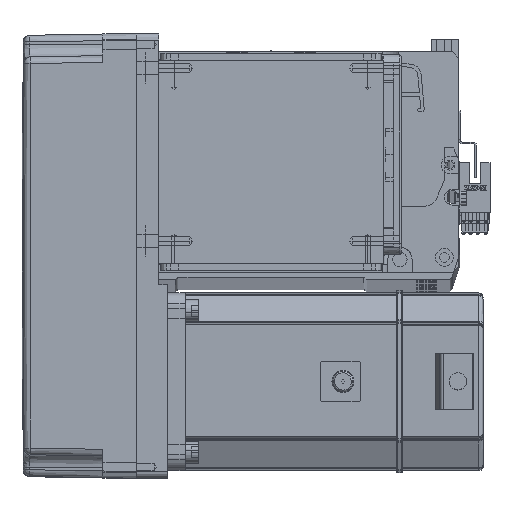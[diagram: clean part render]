
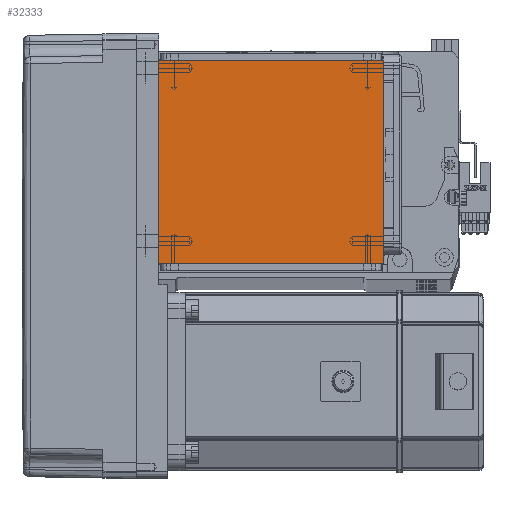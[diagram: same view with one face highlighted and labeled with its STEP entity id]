
A CAD part, top view. The second image highlights one B-rep face of the part: STEP entity #32333.
In plain terms, the highlighted planar face has unit normal (0, 0, 1).
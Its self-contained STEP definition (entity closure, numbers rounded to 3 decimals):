
#2510 = EDGE_LOOP ( 'NONE', ( #62583, #20311, #12491, #18373 ) ) ;
#4449 = DIRECTION ( 'NONE',  ( 0., -1., 0. ) ) ;
#9107 = CARTESIAN_POINT ( 'NONE',  ( -50.5, 20., 115. ) ) ;
#9598 = CARTESIAN_POINT ( 'NONE',  ( 0., 0., 115. ) ) ;
#9921 = VERTEX_POINT ( 'NONE', #13469 ) ;
#10044 = DIRECTION ( 'NONE',  ( -1., 0., 0. ) ) ;
#11971 = DIRECTION ( 'NONE',  ( 0., 1., 0. ) ) ;
#12491 = ORIENTED_EDGE ( 'NONE', *, *, #24342, .F. ) ;
#12982 = VECTOR ( 'NONE', #4449, 1000. ) ;
#13469 = CARTESIAN_POINT ( 'NONE',  ( 50.5, 111.5, 115. ) ) ;
#14889 = EDGE_CURVE ( 'NONE', #30688, #9921, #45771, .T. ) ;
#18373 = ORIENTED_EDGE ( 'NONE', *, *, #14889, .T. ) ;
#20036 = VECTOR ( 'NONE', #11971, 1000. ) ;
#20311 = ORIENTED_EDGE ( 'NONE', *, *, #37809, .T. ) ;
#21336 = LINE ( 'NONE', #52572, #50291 ) ;
#21444 = VERTEX_POINT ( 'NONE', #26580 ) ;
#22007 = DIRECTION ( 'NONE',  ( 1., 0., 0. ) ) ;
#24342 = EDGE_CURVE ( 'NONE', #30688, #60334, #52742, .T. ) ;
#26580 = CARTESIAN_POINT ( 'NONE',  ( -50.5, 111.5, 115. ) ) ;
#30688 = VERTEX_POINT ( 'NONE', #43016 ) ;
#32333 = ADVANCED_FACE ( 'NONE', ( #38415 ), #40442, .T. ) ;
#37809 = EDGE_CURVE ( 'NONE', #21444, #60334, #38005, .T. ) ;
#38005 = LINE ( 'NONE', #45422, #12982 ) ;
#38415 = FACE_OUTER_BOUND ( 'NONE', #2510, .T. ) ;
#40442 = PLANE ( 'NONE',  #48171 ) ;
#40654 = CARTESIAN_POINT ( 'NONE',  ( -70.004, 20., 115. ) ) ;
#41087 = DIRECTION ( 'NONE',  ( 1., 0., 0. ) ) ;
#43016 = CARTESIAN_POINT ( 'NONE',  ( 50.5, 20., 115. ) ) ;
#43097 = VECTOR ( 'NONE', #10044, 1000. ) ;
#45422 = CARTESIAN_POINT ( 'NONE',  ( -50.5, 122., 115. ) ) ;
#45771 = LINE ( 'NONE', #52459, #20036 ) ;
#48171 = AXIS2_PLACEMENT_3D ( 'NONE', #9598, #66412, #41087 ) ;
#50291 = VECTOR ( 'NONE', #22007, 1000. ) ;
#50509 = EDGE_CURVE ( 'NONE', #21444, #9921, #21336, .T. ) ;
#52459 = CARTESIAN_POINT ( 'NONE',  ( 50.5, 122., 115. ) ) ;
#52572 = CARTESIAN_POINT ( 'NONE',  ( -70.004, 111.5, 115. ) ) ;
#52742 = LINE ( 'NONE', #40654, #43097 ) ;
#60334 = VERTEX_POINT ( 'NONE', #9107 ) ;
#62583 = ORIENTED_EDGE ( 'NONE', *, *, #50509, .F. ) ;
#66412 = DIRECTION ( 'NONE',  ( 0., 0., 1. ) ) ;
